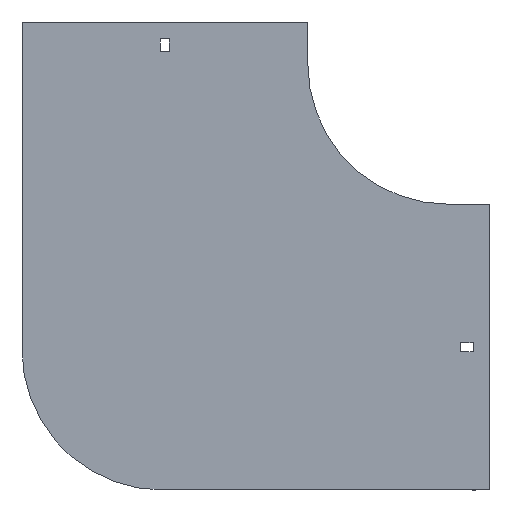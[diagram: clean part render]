
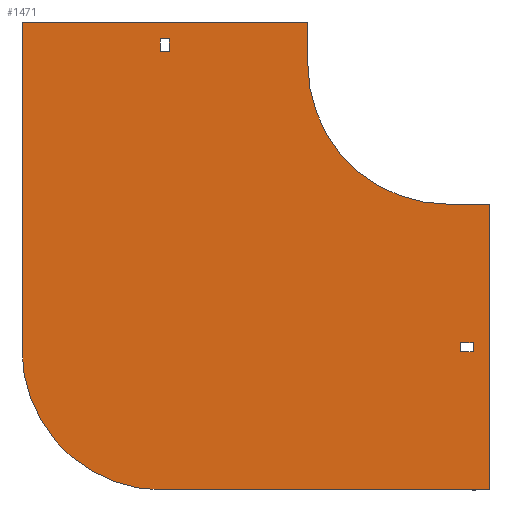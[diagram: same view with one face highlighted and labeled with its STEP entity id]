
A CAD part, front view. The second image highlights one B-rep face of the part: STEP entity #1471.
In plain terms, the highlighted planar face has unit normal (0, -1, 0).
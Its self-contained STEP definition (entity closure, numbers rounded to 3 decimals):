
#4 = FACE_OUTER_BOUND ( 'NONE', #714, .T. ) ;
#25 = ORIENTED_EDGE ( 'NONE', *, *, #955, .T. ) ;
#30 = DIRECTION ( 'NONE',  ( -1., 0., 0. ) ) ;
#53 = VECTOR ( 'NONE', #1682, 1000. ) ;
#112 = LINE ( 'NONE', #1612, #1564 ) ;
#132 = CARTESIAN_POINT ( 'NONE',  ( 9., 0., -205.25 ) ) ;
#137 = DIRECTION ( 'NONE',  ( 1., 0., 0. ) ) ;
#168 = CARTESIAN_POINT ( 'NONE',  ( -205.25, 0., 9. ) ) ;
#186 = ORIENTED_EDGE ( 'NONE', *, *, #1903, .T. ) ;
#222 = CARTESIAN_POINT ( 'NONE',  ( -304., 0., 30. ) ) ;
#223 = EDGE_CURVE ( 'NONE', #1110, #1092, #580, .T. ) ;
#258 = DIRECTION ( 'NONE',  ( 0., 0., 1. ) ) ;
#269 = DIRECTION ( 'NONE',  ( 0., 1., 0. ) ) ;
#273 = DIRECTION ( 'NONE',  ( 1., 0., 0. ) ) ;
#285 = LINE ( 'NONE', #168, #785 ) ;
#300 = CARTESIAN_POINT ( 'NONE',  ( -304., 0., -204. ) ) ;
#301 = ORIENTED_EDGE ( 'NONE', *, *, #223, .F. ) ;
#305 = DIRECTION ( 'NONE',  ( 0., 0., -1. ) ) ;
#323 = DIRECTION ( 'NONE',  ( 0., 0., -1. ) ) ;
#324 = EDGE_CURVE ( 'NONE', #544, #577, #1716, .T. ) ;
#333 = ORIENTED_EDGE ( 'NONE', *, *, #324, .F. ) ;
#359 = VECTOR ( 'NONE', #30, 1000. ) ;
#374 = VERTEX_POINT ( 'NONE', #1133 ) ;
#404 = VECTOR ( 'NONE', #1789, 1000. ) ;
#408 = EDGE_CURVE ( 'NONE', #1284, #1220, #542, .T. ) ;
#415 = VECTOR ( 'NONE', #651, 1000. ) ;
#422 = VERTEX_POINT ( 'NONE', #1908 ) ;
#426 = VECTOR ( 'NONE', #273, 1000. ) ;
#428 = EDGE_CURVE ( 'NONE', #1220, #738, #1477, .T. ) ;
#443 = EDGE_CURVE ( 'NONE', #524, #1358, #823, .T. ) ;
#461 = LINE ( 'NONE', #1799, #1649 ) ;
#474 = CARTESIAN_POINT ( 'NONE',  ( 18., 0., -205.25 ) ) ;
#516 = ORIENTED_EDGE ( 'NONE', *, *, #717, .F. ) ;
#524 = VERTEX_POINT ( 'NONE', #968 ) ;
#542 = LINE ( 'NONE', #959, #1193 ) ;
#544 = VERTEX_POINT ( 'NONE', #739 ) ;
#547 = CARTESIAN_POINT ( 'NONE',  ( -204., 0., -204. ) ) ;
#577 = VERTEX_POINT ( 'NONE', #892 ) ;
#580 = LINE ( 'NONE', #1643, #426 ) ;
#593 = EDGE_CURVE ( 'NONE', #1560, #422, #461, .T. ) ;
#623 = EDGE_CURVE ( 'NONE', #422, #374, #1197, .T. ) ;
#639 = LINE ( 'NONE', #1421, #53 ) ;
#649 = VECTOR ( 'NONE', #1843, 1000. ) ;
#651 = DIRECTION ( 'NONE',  ( 0., 0., 1. ) ) ;
#668 = CARTESIAN_POINT ( 'NONE',  ( 0., 0., -100. ) ) ;
#675 = LINE ( 'NONE', #1257, #359 ) ;
#697 = EDGE_CURVE ( 'NONE', #738, #1487, #639, .T. ) ;
#714 = EDGE_LOOP ( 'NONE', ( #516, #1008, #1183, #996, #1835, #301, #1031, #333 ) ) ;
#717 = EDGE_CURVE ( 'NONE', #1444, #544, #1102, .T. ) ;
#726 = AXIS2_PLACEMENT_3D ( 'NONE', #1428, #1745, #305 ) ;
#735 = DIRECTION ( 'NONE',  ( 0., 0., -1. ) ) ;
#738 = VERTEX_POINT ( 'NONE', #1561 ) ;
#739 = CARTESIAN_POINT ( 'NONE',  ( -100., 0., 30. ) ) ;
#763 = FACE_BOUND ( 'NONE', #872, .T. ) ;
#765 = EDGE_LOOP ( 'NONE', ( #1274, #1138, #1188, #1424 ) ) ;
#779 = EDGE_CURVE ( 'NONE', #1850, #1444, #1111, .T. ) ;
#781 = PLANE ( 'NONE',  #1693 ) ;
#785 = VECTOR ( 'NONE', #1805, 1000. ) ;
#809 = CARTESIAN_POINT ( 'NONE',  ( 30., 0., -304. ) ) ;
#817 = ORIENTED_EDGE ( 'NONE', *, *, #623, .T. ) ;
#821 = CARTESIAN_POINT ( 'NONE',  ( -205.25, 0., 18. ) ) ;
#823 = LINE ( 'NONE', #809, #1057 ) ;
#839 = CARTESIAN_POINT ( 'NONE',  ( 30., 0., -100. ) ) ;
#840 = VECTOR ( 'NONE', #998, 1000. ) ;
#851 = CARTESIAN_POINT ( 'NONE',  ( 9., 0., -198.75 ) ) ;
#872 = EDGE_LOOP ( 'NONE', ( #25, #1397, #817, #186 ) ) ;
#892 = CARTESIAN_POINT ( 'NONE',  ( -100., 0., 0. ) ) ;
#896 = DIRECTION ( 'NONE',  ( 0., 0., -1. ) ) ;
#909 = CARTESIAN_POINT ( 'NONE',  ( -204., 0., -304. ) ) ;
#911 = EDGE_CURVE ( 'NONE', #577, #1110, #1883, .T. ) ;
#920 = CARTESIAN_POINT ( 'NONE',  ( -198.75, 0., 9. ) ) ;
#955 = EDGE_CURVE ( 'NONE', #1452, #1560, #285, .T. ) ;
#959 = CARTESIAN_POINT ( 'NONE',  ( 9., 0., -198.75 ) ) ;
#961 = DIRECTION ( 'NONE',  ( 1., 0., 0. ) ) ;
#968 = CARTESIAN_POINT ( 'NONE',  ( 30., 0., -304. ) ) ;
#995 = DIRECTION ( 'NONE',  ( -1., 0., 0. ) ) ;
#996 = ORIENTED_EDGE ( 'NONE', *, *, #443, .F. ) ;
#998 = DIRECTION ( 'NONE',  ( 0., 0., -1. ) ) ;
#1008 = ORIENTED_EDGE ( 'NONE', *, *, #779, .F. ) ;
#1031 = ORIENTED_EDGE ( 'NONE', *, *, #911, .F. ) ;
#1057 = VECTOR ( 'NONE', #995, 1000. ) ;
#1062 = CARTESIAN_POINT ( 'NONE',  ( 0., 0., 0. ) ) ;
#1092 = VERTEX_POINT ( 'NONE', #839 ) ;
#1102 = LINE ( 'NONE', #222, #1410 ) ;
#1110 = VERTEX_POINT ( 'NONE', #668 ) ;
#1111 = LINE ( 'NONE', #1720, #415 ) ;
#1119 = CARTESIAN_POINT ( 'NONE',  ( -100., 0., 30. ) ) ;
#1133 = CARTESIAN_POINT ( 'NONE',  ( -198.75, 0., 9. ) ) ;
#1138 = ORIENTED_EDGE ( 'NONE', *, *, #697, .F. ) ;
#1183 = ORIENTED_EDGE ( 'NONE', *, *, #1656, .F. ) ;
#1188 = ORIENTED_EDGE ( 'NONE', *, *, #428, .F. ) ;
#1193 = VECTOR ( 'NONE', #1261, 1000. ) ;
#1197 = LINE ( 'NONE', #920, #404 ) ;
#1218 = FACE_BOUND ( 'NONE', #765, .T. ) ;
#1220 = VERTEX_POINT ( 'NONE', #851 ) ;
#1249 = CARTESIAN_POINT ( 'NONE',  ( 18., 0., -205.25 ) ) ;
#1253 = AXIS2_PLACEMENT_3D ( 'NONE', #547, #269, #258 ) ;
#1257 = CARTESIAN_POINT ( 'NONE',  ( -205.25, 0., 9. ) ) ;
#1261 = DIRECTION ( 'NONE',  ( -1., 0., 0. ) ) ;
#1274 = ORIENTED_EDGE ( 'NONE', *, *, #1617, .F. ) ;
#1284 = VERTEX_POINT ( 'NONE', #1782 ) ;
#1309 = VECTOR ( 'NONE', #735, 1000. ) ;
#1352 = EDGE_CURVE ( 'NONE', #1092, #524, #112, .T. ) ;
#1358 = VERTEX_POINT ( 'NONE', #909 ) ;
#1359 = CARTESIAN_POINT ( 'NONE',  ( -304., 0., 30. ) ) ;
#1394 = LINE ( 'NONE', #1249, #649 ) ;
#1397 = ORIENTED_EDGE ( 'NONE', *, *, #593, .T. ) ;
#1410 = VECTOR ( 'NONE', #961, 1000. ) ;
#1421 = CARTESIAN_POINT ( 'NONE',  ( 9., 0., -205.25 ) ) ;
#1424 = ORIENTED_EDGE ( 'NONE', *, *, #408, .F. ) ;
#1428 = CARTESIAN_POINT ( 'NONE',  ( 0., 0., 0. ) ) ;
#1444 = VERTEX_POINT ( 'NONE', #1359 ) ;
#1452 = VERTEX_POINT ( 'NONE', #1654 ) ;
#1471 = ADVANCED_FACE ( 'NONE', ( #763, #4, #1218 ), #781, .T. ) ;
#1477 = LINE ( 'NONE', #132, #1309 ) ;
#1487 = VERTEX_POINT ( 'NONE', #474 ) ;
#1560 = VERTEX_POINT ( 'NONE', #821 ) ;
#1561 = CARTESIAN_POINT ( 'NONE',  ( 9., 0., -205.25 ) ) ;
#1564 = VECTOR ( 'NONE', #896, 1000. ) ;
#1612 = CARTESIAN_POINT ( 'NONE',  ( 30., 0., -100. ) ) ;
#1617 = EDGE_CURVE ( 'NONE', #1487, #1284, #1394, .T. ) ;
#1643 = CARTESIAN_POINT ( 'NONE',  ( 0., 0., -100. ) ) ;
#1649 = VECTOR ( 'NONE', #137, 1000. ) ;
#1654 = CARTESIAN_POINT ( 'NONE',  ( -205.25, 0., 9. ) ) ;
#1656 = EDGE_CURVE ( 'NONE', #1358, #1850, #1943, .T. ) ;
#1670 = DIRECTION ( 'NONE',  ( 0., -1., 0. ) ) ;
#1682 = DIRECTION ( 'NONE',  ( 1., 0., 0. ) ) ;
#1693 = AXIS2_PLACEMENT_3D ( 'NONE', #1062, #1670, #323 ) ;
#1716 = LINE ( 'NONE', #1119, #840 ) ;
#1720 = CARTESIAN_POINT ( 'NONE',  ( -304., 0., -204. ) ) ;
#1745 = DIRECTION ( 'NONE',  ( 0., -1., 0. ) ) ;
#1782 = CARTESIAN_POINT ( 'NONE',  ( 18., 0., -198.75 ) ) ;
#1789 = DIRECTION ( 'NONE',  ( 0., 0., -1. ) ) ;
#1799 = CARTESIAN_POINT ( 'NONE',  ( -205.25, 0., 18. ) ) ;
#1805 = DIRECTION ( 'NONE',  ( 0., 0., 1. ) ) ;
#1835 = ORIENTED_EDGE ( 'NONE', *, *, #1352, .F. ) ;
#1843 = DIRECTION ( 'NONE',  ( 0., 0., 1. ) ) ;
#1850 = VERTEX_POINT ( 'NONE', #300 ) ;
#1883 = CIRCLE ( 'NONE', #726, 100. ) ;
#1903 = EDGE_CURVE ( 'NONE', #374, #1452, #675, .T. ) ;
#1908 = CARTESIAN_POINT ( 'NONE',  ( -198.75, 0., 18. ) ) ;
#1943 = CIRCLE ( 'NONE', #1253, 100. ) ;
